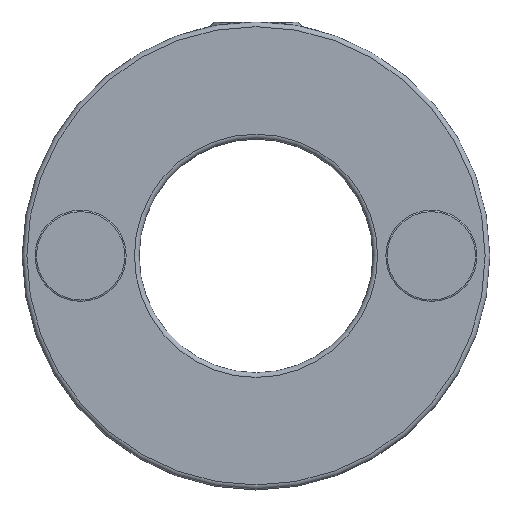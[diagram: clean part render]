
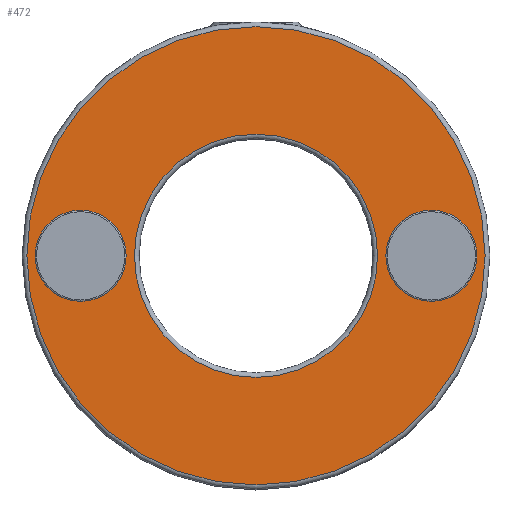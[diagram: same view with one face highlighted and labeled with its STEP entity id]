
A CAD part, top view. The second image highlights one B-rep face of the part: STEP entity #472.
In plain terms, the highlighted planar face has unit normal (0, 0, 1).
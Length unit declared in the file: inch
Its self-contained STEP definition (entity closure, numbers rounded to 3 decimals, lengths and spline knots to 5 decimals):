
#24=FACE_BOUND('',#167,.T.);
#25=FACE_BOUND('',#168,.T.);
#26=FACE_BOUND('',#169,.T.);
#47=PLANE('',#544);
#135=FACE_OUTER_BOUND('',#166,.T.);
#166=EDGE_LOOP('',(#388));
#167=EDGE_LOOP('',(#389));
#168=EDGE_LOOP('',(#390));
#169=EDGE_LOOP('',(#391));
#196=CIRCLE('',#517,0.09744);
#198=CIRCLE('',#520,0.09744);
#199=CIRCLE('',#522,0.49);
#210=CIRCLE('',#535,0.26);
#226=VERTEX_POINT('',#746);
#228=VERTEX_POINT('',#752);
#229=VERTEX_POINT('',#756);
#237=VERTEX_POINT('',#776);
#272=EDGE_CURVE('',#226,#226,#196,.T.);
#275=EDGE_CURVE('',#228,#228,#198,.T.);
#276=EDGE_CURVE('',#229,#229,#199,.T.);
#287=EDGE_CURVE('',#237,#237,#210,.T.);
#388=ORIENTED_EDGE('',*,*,#276,.T.);
#389=ORIENTED_EDGE('',*,*,#272,.T.);
#390=ORIENTED_EDGE('',*,*,#275,.T.);
#391=ORIENTED_EDGE('',*,*,#287,.T.);
#472=ADVANCED_FACE('',(#135,#24,#25,#26),#47,.T.);
#517=AXIS2_PLACEMENT_3D('',#748,#599,#600);
#520=AXIS2_PLACEMENT_3D('',#754,#606,#607);
#522=AXIS2_PLACEMENT_3D('',#757,#610,#611);
#535=AXIS2_PLACEMENT_3D('',#778,#636,#637);
#544=AXIS2_PLACEMENT_3D('',#867,#657,#658);
#599=DIRECTION('center_axis',(0.,0.,-1.));
#600=DIRECTION('ref_axis',(1.,0.,0.));
#606=DIRECTION('center_axis',(0.,0.,-1.));
#607=DIRECTION('ref_axis',(1.,0.,0.));
#610=DIRECTION('center_axis',(0.,0.,1.));
#611=DIRECTION('ref_axis',(1.,0.,0.));
#636=DIRECTION('center_axis',(0.,0.,-1.));
#637=DIRECTION('ref_axis',(1.,0.,0.));
#657=DIRECTION('center_axis',(0.,0.,1.));
#658=DIRECTION('ref_axis',(1.,0.,0.));
#746=CARTESIAN_POINT('',(-0.47244,0.,0.4375));
#748=CARTESIAN_POINT('Origin',(-0.375,0.,0.4375));
#752=CARTESIAN_POINT('',(0.27756,0.,0.4375));
#754=CARTESIAN_POINT('Origin',(0.375,0.,0.4375));
#756=CARTESIAN_POINT('',(-0.49,0.,0.4375));
#757=CARTESIAN_POINT('Origin',(0.,0.,0.4375));
#776=CARTESIAN_POINT('',(-0.26,0.,0.4375));
#778=CARTESIAN_POINT('Origin',(0.,0.,0.4375));
#867=CARTESIAN_POINT('Origin',(0.,0.,0.4375));
